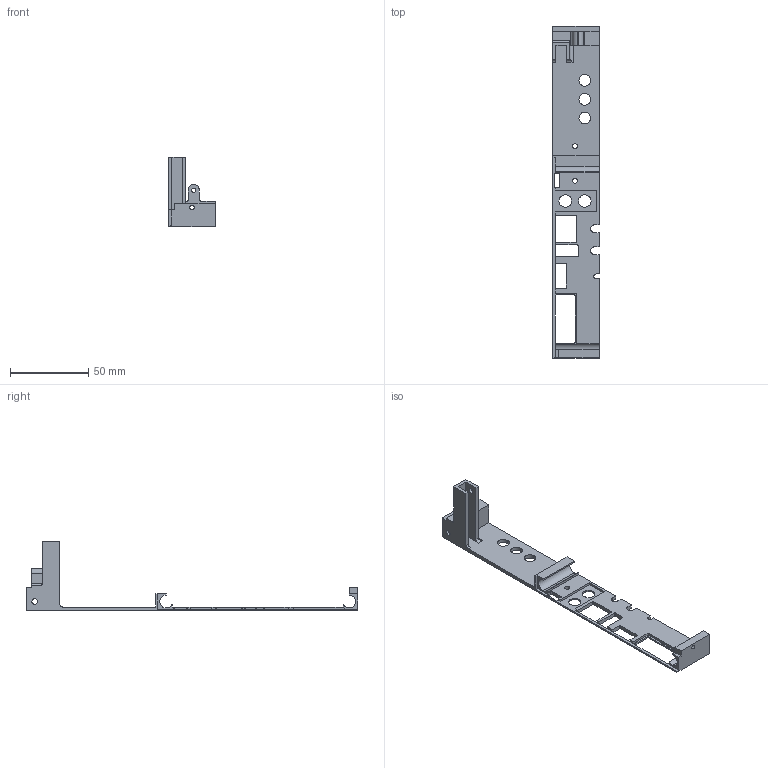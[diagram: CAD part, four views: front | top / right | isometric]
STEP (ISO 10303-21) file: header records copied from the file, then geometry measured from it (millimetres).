
FILE_DESCRIPTION (( 'STEP AP214' ), '1' );
FILE_NAME ('Jetson_node_zero_back.STEP', '2015-02-27T04:04:20', ( '' ), ( '' ), '', '', '' );
FILE_SCHEMA (( '' ));
Length unit declared in the file: millimetre
Products named in the file (1): Jetson_node_zero_back
Bounding box: 29.75 x 212 x 44.65 mm (x, y, z)
Volume: 20226.2 mm3; surface area: 18646.5 mm2
Topology: 1 solids, 1 shells, 140 faces, 422 edges, 281 vertices
Faces by surface type: plane 79, cylinder 61
Entity records: 4850 total; most frequent: CARTESIAN_POINT 847, ORIENTED_EDGE 844, DIRECTION 824, EDGE_CURVE 422, LINE 300, VECTOR 300, VERTEX_POINT 281, AXIS2_PLACEMENT_3D 262
